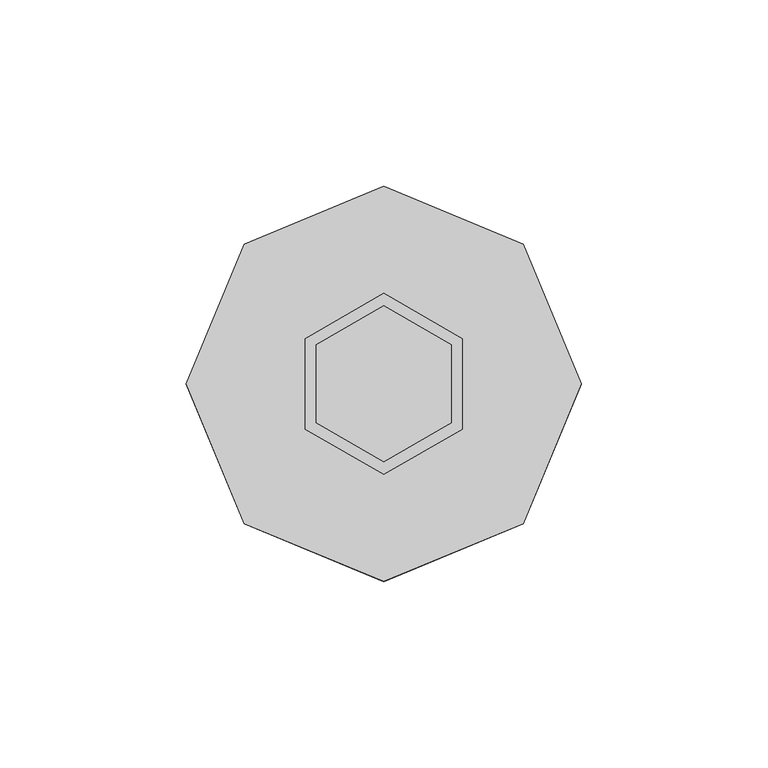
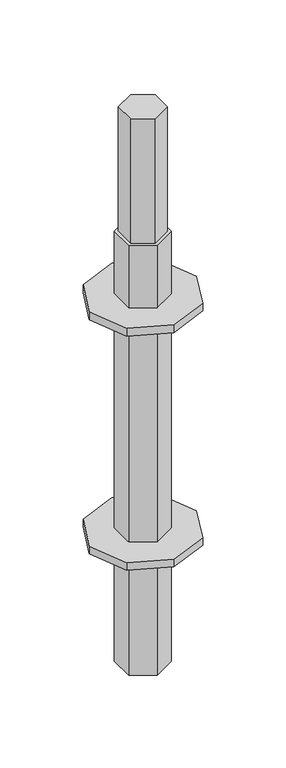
"""IFC4 building model written with IfcOpenShell, lengths in millimetres: proxy geometry, AK_アルバトロスＡＫ根がらみ支柱L=450（大和式ピン）_軽 : AK_アルバトロスＡＫ根がらみ支柱L=450（大和式ピン）_軽."""

from ifc_helpers import new_model, si_unit, frame, origin, origin_with_axes, place, context, project, spatial, polyline, outline, extrude, source, transform, mapped, element, save


def generic_models_267648cc(model_context):
    return source(origin(), model_context, "Body", "SweptSolid", [
        extrude(outline(polyline([(-37.4766594, 37.4766594), (0.0, 53.0), (37.4766594, 37.4766594), (53.0, 0.0), (37.4766594, -37.4766594), (0.0, -53.0), (-37.4766594, -37.4766594), (-53.0, 0.0), (-37.4766594, 37.4766594)])), frame((0.0, 0.0, 376.0), z_axis=(0.0, 0.0, 1.0), x_axis=(1.0, 0.0, 0.0)), (0.0, 0.0, 1.0), 8.0),
        extrude(outline(polyline([(-37.4766594, 37.4766594), (0.0, 53.0), (37.4766594, 37.4766594), (53.0, 0.0), (37.4766594, -37.4766594), (0.0, -53.0), (-37.4766594, -37.4766594), (-53.0, 0.0), (-37.4766594, 37.4766594)])), frame((0.0, 0.0, 131.0), z_axis=(0.0, 0.0, 1.0), x_axis=(1.0, 0.0, 0.0)), (0.0, 0.0, 1.0), 8.0),
        extrude(outline(polyline([(18.1601977, 10.484795), (18.1601977, -10.484795), (0.0, -20.96959), (-18.1601977, -10.484795), (-18.1601977, 10.484795), (0.0, 20.96959), (18.1601977, 10.484795)])), frame((0.0, 0.0, 450.0), z_axis=(0.0, 0.0, 1.0), x_axis=(1.0, 0.0, 0.0)), (0.0, 0.0, 1.0), 130.0),
        extrude(outline(polyline([(-21.0444173, 12.15), (0.0, 24.3), (21.0444173, 12.15), (21.0444173, -12.15), (0.0, -24.3), (-21.0444173, -12.15), (-21.0444173, 12.15)])), origin_with_axes(), (0.0, 0.0, 1.0), 450.0),
    ])


if __name__ == "__main__":
    model = new_model("IFC4")
    model_context = context("Model", 3, world=origin())
    ifc_project = project(units=[si_unit("LENGTHUNIT", "METRE", prefix="MILLI")], contexts=[model_context])
    site = spatial("IfcSite", under=ifc_project)
    building = spatial("IfcBuilding", under=site)
    placement = place(None, origin())
    generic_models_shape = generic_models_267648cc(model_context)
    element("IfcBuildingElementProxy", 1, Name="AK_アルバトロスＡＫ根がらみ支柱L=450（大和式ピン）_軽 : AK_アルバトロスＡＫ根がらみ支柱L=450（大和式ピン）_軽", ObjectType="AK_アルバトロスＡＫ根がらみ支柱L=450（大和式ピン）_軽 : AK_アルバトロスＡＫ根がらみ支柱L=450（大和式ピン）_軽", at=placement, inside=building, context=model_context, shape_type="MappedRepresentation", body=[
        mapped(generic_models_shape, transform((0.0, 0.0, 0.0), x_axis=(1.0, 0.0, 0.0), y_axis=(0.0, 1.0, 0.0), z_axis=(0.0, 0.0, 1.0))),
    ])
    save(model, "model.ifc")
